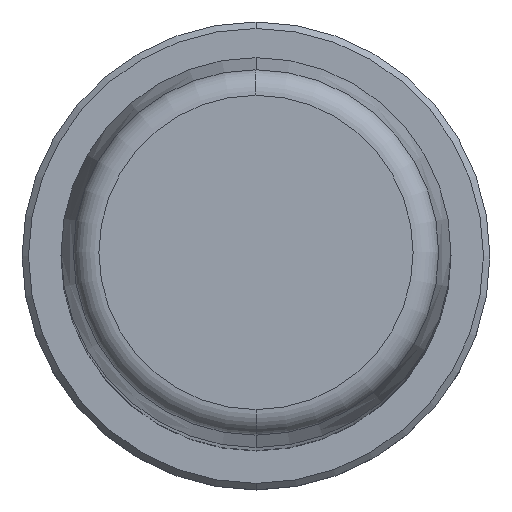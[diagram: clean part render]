
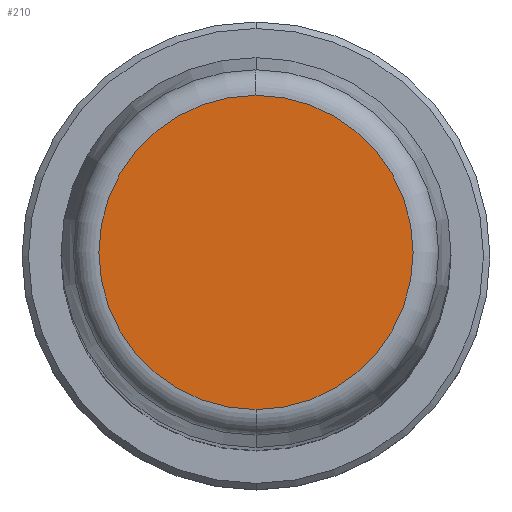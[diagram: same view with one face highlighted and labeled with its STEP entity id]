
A CAD part, top view. The second image highlights one B-rep face of the part: STEP entity #210.
In plain terms, the highlighted planar face has unit normal (0, 0, 1).
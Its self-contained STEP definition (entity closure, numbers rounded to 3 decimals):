
#1=CARTESIAN_POINT('',(0.,0.,160.));
#2=DIRECTION('',(0.,0.,-1.));
#3=DIRECTION('',(0.,-1.,0.));
#4=AXIS2_PLACEMENT_3D('',#1,#2,#3);
#6=CARTESIAN_POINT('',(0.,0.,160.));
#7=DIRECTION('',(0.,0.,-1.));
#8=DIRECTION('',(0.,1.,0.));
#9=AXIS2_PLACEMENT_3D('',#6,#7,#8);
#183=CARTESIAN_POINT('',(0.,-12.088,160.));
#184=CARTESIAN_POINT('',(0.,12.088,160.));
#185=VERTEX_POINT('',#183);
#186=VERTEX_POINT('',#184);
#199=CARTESIAN_POINT('',(0.,0.,160.));
#200=DIRECTION('',(0.,0.,1.));
#201=DIRECTION('',(0.,-1.,0.));
#202=AXIS2_PLACEMENT_3D('',#199,#200,#201);
#203=PLANE('',#202);
#205=ORIENTED_EDGE('',*,*,#204,.T.);
#207=ORIENTED_EDGE('',*,*,#206,.T.);
#208=EDGE_LOOP('',(#205,#207));
#209=FACE_OUTER_BOUND('',#208,.F.);
#210=ADVANCED_FACE('',(#209),#203,.T.);
#5=CIRCLE('',#4,12.088);
#10=CIRCLE('',#9,12.088);
#204=EDGE_CURVE('',#185,#186,#5,.T.);
#206=EDGE_CURVE('',#186,#185,#10,.T.);
